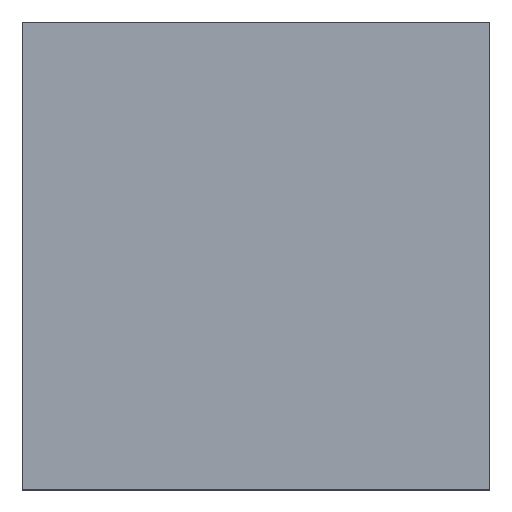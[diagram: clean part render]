
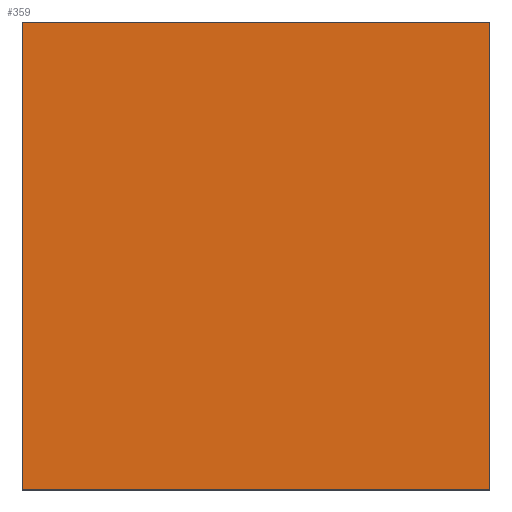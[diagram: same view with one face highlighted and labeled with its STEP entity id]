
A CAD part, top view. The second image highlights one B-rep face of the part: STEP entity #359.
In plain terms, the highlighted planar face has unit normal (0, 0, 1).
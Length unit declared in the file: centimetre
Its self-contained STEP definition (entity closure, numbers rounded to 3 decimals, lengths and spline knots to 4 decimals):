
#22 = DIRECTION ( 'NONE',  ( 1., 0., 0. ) ) ;
#61 = CARTESIAN_POINT ( 'NONE',  ( 0., 0., 1000. ) ) ;
#67 = ORIENTED_EDGE ( 'NONE', *, *, #542, .T. ) ;
#74 = LINE ( 'NONE', #61, #1030 ) ;
#112 = VECTOR ( 'NONE', #519, 100. ) ;
#173 = CARTESIAN_POINT ( 'NONE',  ( 1000., 1000., 1000. ) ) ;
#189 = DIRECTION ( 'NONE',  ( 0., 1., 0. ) ) ;
#222 = LINE ( 'NONE', #573, #332 ) ;
#332 = VECTOR ( 'NONE', #865, 100. ) ;
#347 = DIRECTION ( 'NONE',  ( 0., 0., 1. ) ) ;
#359 = ADVANCED_FACE ( 'NONE', ( #435 ), #908, .T. ) ;
#401 = ORIENTED_EDGE ( 'NONE', *, *, #520, .T. ) ;
#413 = CARTESIAN_POINT ( 'NONE',  ( 1000., 1000., 1000. ) ) ;
#435 = FACE_OUTER_BOUND ( 'NONE', #479, .T. ) ;
#479 = EDGE_LOOP ( 'NONE', ( #613, #67, #976, #401 ) ) ;
#493 = CARTESIAN_POINT ( 'NONE',  ( 0., 1000., 1000. ) ) ;
#502 = EDGE_CURVE ( 'NONE', #776, #987, #222, .T. ) ;
#519 = DIRECTION ( 'NONE',  ( -1., 0., 0. ) ) ;
#520 = EDGE_CURVE ( 'NONE', #582, #776, #693, .T. ) ;
#542 = EDGE_CURVE ( 'NONE', #987, #1076, #74, .T. ) ;
#573 = CARTESIAN_POINT ( 'NONE',  ( 0., 1000., 1000. ) ) ;
#582 = VERTEX_POINT ( 'NONE', #413 ) ;
#613 = ORIENTED_EDGE ( 'NONE', *, *, #502, .T. ) ;
#688 = EDGE_CURVE ( 'NONE', #1076, #582, #701, .T. ) ;
#693 = LINE ( 'NONE', #1138, #112 ) ;
#701 = LINE ( 'NONE', #173, #965 ) ;
#776 = VERTEX_POINT ( 'NONE', #493 ) ;
#785 = AXIS2_PLACEMENT_3D ( 'NONE', #823, #347, #22 ) ;
#823 = CARTESIAN_POINT ( 'NONE',  ( 0., 0., 1000. ) ) ;
#865 = DIRECTION ( 'NONE',  ( 0., -1., 0. ) ) ;
#908 = PLANE ( 'NONE',  #785 ) ;
#965 = VECTOR ( 'NONE', #189, 100. ) ;
#976 = ORIENTED_EDGE ( 'NONE', *, *, #688, .T. ) ;
#987 = VERTEX_POINT ( 'NONE', #1127 ) ;
#1030 = VECTOR ( 'NONE', #1134, 100. ) ;
#1076 = VERTEX_POINT ( 'NONE', #1079 ) ;
#1079 = CARTESIAN_POINT ( 'NONE',  ( 1000., 0., 1000. ) ) ;
#1127 = CARTESIAN_POINT ( 'NONE',  ( 0., 0., 1000. ) ) ;
#1134 = DIRECTION ( 'NONE',  ( 1., 0., 0. ) ) ;
#1138 = CARTESIAN_POINT ( 'NONE',  ( 0., 1000., 1000. ) ) ;
